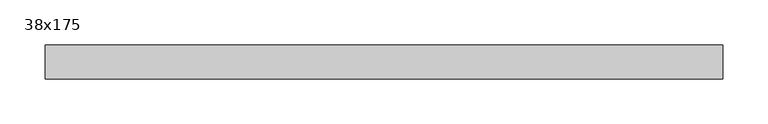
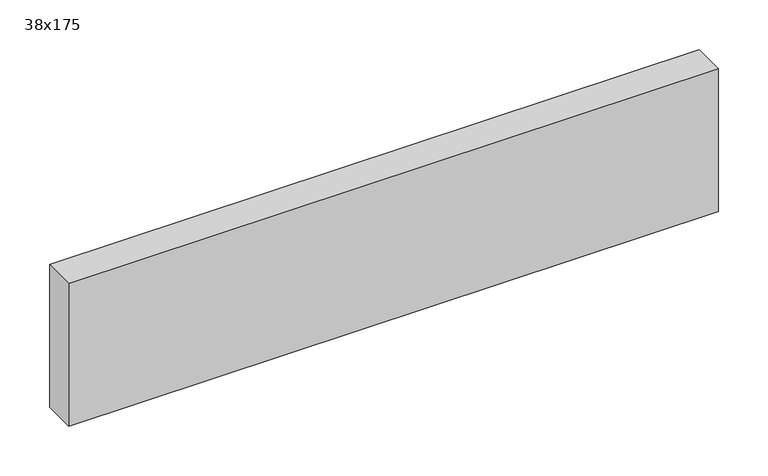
"""IFC4 building model written with IfcOpenShell, lengths in millimetres: beam geometry, Graded Timber : 38x175."""

from ifc_helpers import new_model, si_unit, frame, origin, place, context, project, spatial, polyline, outline, extrude, source, transform, mapped, element, save


def beam_38x175_5960142e(model_context):
    return source(origin(), model_context, "Body", "SweptSolid", [
        extrude(outline(polyline([(403.4999997, 19.0), (403.4999997, -19.0), (-348.5000025, -19.0), (-348.5000025, 19.0), (403.4999997, 19.0)])), frame((0.0, 0.0, -87.5), z_axis=(0.0, 0.0, 1.0), x_axis=(1.0, 0.0, 0.0)), (0.0, 0.0, 1.0), 175.0),
    ])


if __name__ == "__main__":
    model = new_model("IFC4")
    model_context = context("Model", 3, world=origin())
    ifc_project = project(units=[si_unit("LENGTHUNIT", "METRE", prefix="MILLI")], contexts=[model_context])
    site = spatial("IfcSite", under=ifc_project)
    building = spatial("IfcBuilding", under=site)
    placement = place(None, origin())
    beam_38x175_shape = beam_38x175_5960142e(model_context)
    element("IfcBeam", 1, ObjectType="Graded Timber : 38x175", at=placement, inside=building, context=model_context, shape_type="MappedRepresentation", body=[
        mapped(beam_38x175_shape, transform((0.0, 0.0, 0.0), x_axis=(1.0, 0.0, 0.0), y_axis=(0.0, 1.0, 0.0), z_axis=(0.0, 0.0, 1.0))),
    ])
    save(model, "model.ifc")
